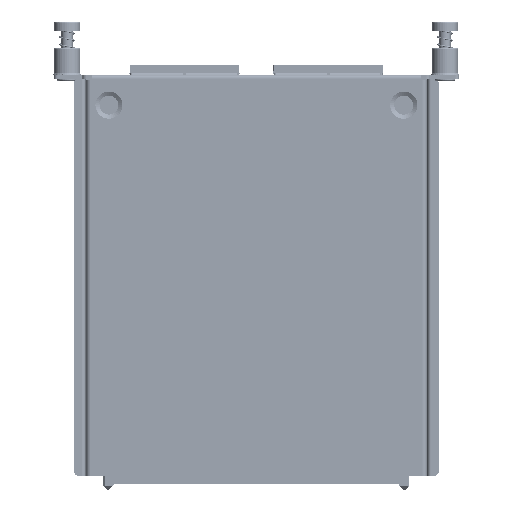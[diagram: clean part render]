
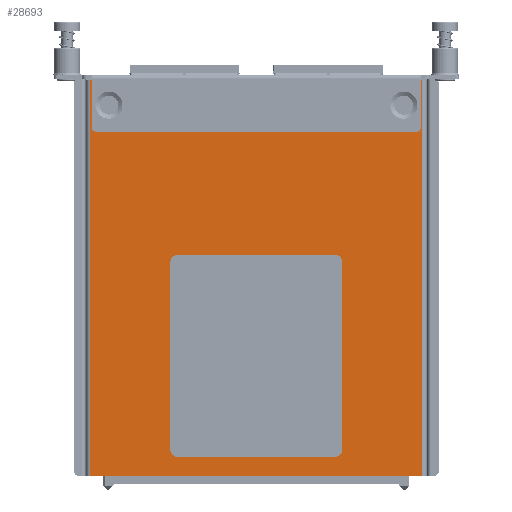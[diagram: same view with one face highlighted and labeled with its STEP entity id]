
A CAD part, front view. The second image highlights one B-rep face of the part: STEP entity #28693.
In plain terms, the highlighted planar face has unit normal (0, -1, 0).
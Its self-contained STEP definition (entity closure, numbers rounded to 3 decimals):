
#7195=CARTESIAN_POINT('',(-39.,-19.3,-7.));
#7196=DIRECTION('',(0.,-1.,0.));
#7197=DIRECTION('',(1.,0.,0.));
#7198=AXIS2_PLACEMENT_3D('',#7195,#7196,#7197);
#7200=CARTESIAN_POINT('',(-39.,-19.3,-7.));
#7201=DIRECTION('',(0.,-1.,0.));
#7202=DIRECTION('',(-1.,0.,0.));
#7203=AXIS2_PLACEMENT_3D('',#7200,#7201,#7202);
#7205=CARTESIAN_POINT('',(39.,-19.3,-7.));
#7206=DIRECTION('',(0.,-1.,0.));
#7207=DIRECTION('',(1.,0.,0.));
#7208=AXIS2_PLACEMENT_3D('',#7205,#7206,#7207);
#7210=CARTESIAN_POINT('',(39.,-19.3,-7.));
#7211=DIRECTION('',(0.,-1.,0.));
#7212=DIRECTION('',(-1.,0.,0.));
#7213=AXIS2_PLACEMENT_3D('',#7210,#7211,#7212);
#7215=CARTESIAN_POINT('',(-42.5,-19.3,-1.3));
#7216=DIRECTION('',(0.,1.,0.));
#7217=DIRECTION('',(0.,0.,1.));
#7218=AXIS2_PLACEMENT_3D('',#7215,#7216,#7217);
#7220=CARTESIAN_POINT('',(-33.5,-19.3,-3.));
#7221=DIRECTION('',(0.,1.,0.));
#7222=DIRECTION('',(0.,0.,1.));
#7223=AXIS2_PLACEMENT_3D('',#7220,#7221,#7222);
#7225=CARTESIAN_POINT('',(33.5,-19.3,-3.));
#7226=DIRECTION('',(0.,1.,0.));
#7227=DIRECTION('',(-1.,0.,0.));
#7228=AXIS2_PLACEMENT_3D('',#7225,#7226,#7227);
#7230=CARTESIAN_POINT('',(42.5,-19.3,-1.3));
#7231=DIRECTION('',(0.,1.,0.));
#7232=DIRECTION('',(-1.,0.,0.));
#7233=AXIS2_PLACEMENT_3D('',#7230,#7231,#7232);
#7235=DIRECTION('',(1.,0.,0.));
#7236=VECTOR('',#7235,1.4);
#7237=CARTESIAN_POINT('',(42.5,-19.3,-0.3));
#7238=LINE('',#7237,#7236);
#7239=DIRECTION('',(1.,0.,0.));
#7240=VECTOR('',#7239,1.4);
#7241=CARTESIAN_POINT('',(-43.9,-19.3,-0.3));
#7242=LINE('',#7241,#7240);
#7243=CARTESIAN_POINT('',(20.75,-19.3,-48.55));
#7244=DIRECTION('',(0.,-1.,0.));
#7245=DIRECTION('',(1.,0.,0.));
#7246=AXIS2_PLACEMENT_3D('',#7243,#7244,#7245);
#7248=DIRECTION('',(1.,0.,0.));
#7249=VECTOR('',#7248,41.5);
#7250=CARTESIAN_POINT('',(-20.75,-19.3,-46.55));
#7251=LINE('',#7250,#7249);
#7252=CARTESIAN_POINT('',(-20.75,-19.3,-48.55));
#7253=DIRECTION('',(0.,-1.,0.));
#7254=DIRECTION('',(0.,0.,1.));
#7255=AXIS2_PLACEMENT_3D('',#7252,#7253,#7254);
#7257=DIRECTION('',(0.,0.,1.));
#7258=VECTOR('',#7257,49.5);
#7259=CARTESIAN_POINT('',(-22.75,-19.3,-98.05));
#7260=LINE('',#7259,#7258);
#7261=CARTESIAN_POINT('',(-20.75,-19.3,-98.05));
#7262=DIRECTION('',(0.,-1.,0.));
#7263=DIRECTION('',(-1.,0.,0.));
#7264=AXIS2_PLACEMENT_3D('',#7261,#7262,#7263);
#7266=DIRECTION('',(-1.,0.,0.));
#7267=VECTOR('',#7266,41.5);
#7268=CARTESIAN_POINT('',(20.75,-19.3,-100.05));
#7269=LINE('',#7268,#7267);
#7270=CARTESIAN_POINT('',(20.75,-19.3,-98.05));
#7271=DIRECTION('',(0.,-1.,0.));
#7272=DIRECTION('',(0.,0.,-1.));
#7273=AXIS2_PLACEMENT_3D('',#7270,#7271,#7272);
#7275=DIRECTION('',(0.,0.,-1.));
#7276=VECTOR('',#7275,49.5);
#7277=CARTESIAN_POINT('',(22.75,-19.3,-48.55));
#7278=LINE('',#7277,#7276);
#7296=DIRECTION('',(0.,0.,-1.));
#7297=VECTOR('',#7296,104.7);
#7298=CARTESIAN_POINT('',(-43.9,-19.3,-0.3));
#7299=LINE('',#7298,#7297);
#7367=DIRECTION('',(1.,0.,0.));
#7368=VECTOR('',#7367,87.8);
#7369=CARTESIAN_POINT('',(-43.9,-19.3,-105.));
#7370=LINE('',#7369,#7368);
#7388=DIRECTION('',(0.,0.,1.));
#7389=VECTOR('',#7388,104.7);
#7390=CARTESIAN_POINT('',(43.9,-19.3,-105.));
#7391=LINE('',#7390,#7389);
#7451=DIRECTION('',(0.,0.,1.));
#7452=VECTOR('',#7451,0.7);
#7453=CARTESIAN_POINT('',(41.5,-19.3,-2.));
#7454=LINE('',#7453,#7452);
#7459=DIRECTION('',(1.,0.,0.));
#7460=VECTOR('',#7459,8.);
#7461=CARTESIAN_POINT('',(33.5,-19.3,-2.));
#7462=LINE('',#7461,#7460);
#7471=DIRECTION('',(0.,0.,1.));
#7472=VECTOR('',#7471,9.);
#7473=CARTESIAN_POINT('',(32.5,-19.3,-12.));
#7474=LINE('',#7473,#7472);
#7475=DIRECTION('',(-1.,0.,0.));
#7476=VECTOR('',#7475,65.);
#7477=CARTESIAN_POINT('',(32.5,-19.3,-12.));
#7478=LINE('',#7477,#7476);
#7487=DIRECTION('',(0.,0.,1.));
#7488=VECTOR('',#7487,9.);
#7489=CARTESIAN_POINT('',(-32.5,-19.3,-12.));
#7490=LINE('',#7489,#7488);
#7499=DIRECTION('',(1.,0.,0.));
#7500=VECTOR('',#7499,8.);
#7501=CARTESIAN_POINT('',(-41.5,-19.3,-2.));
#7502=LINE('',#7501,#7500);
#7507=DIRECTION('',(0.,0.,1.));
#7508=VECTOR('',#7507,0.7);
#7509=CARTESIAN_POINT('',(-41.5,-19.3,-2.));
#7510=LINE('',#7509,#7508);
#13700=CARTESIAN_POINT('',(-42.5,-19.3,-0.3));
#13701=CARTESIAN_POINT('',(-41.5,-19.3,-1.3));
#13702=VERTEX_POINT('',#13700);
#13703=VERTEX_POINT('',#13701);
#13704=CARTESIAN_POINT('',(-43.9,-19.3,-0.3));
#13705=VERTEX_POINT('',#13704);
#13706=CARTESIAN_POINT('',(-43.9,-19.3,-105.));
#13707=VERTEX_POINT('',#13706);
#13708=CARTESIAN_POINT('',(43.9,-19.3,-105.));
#13709=VERTEX_POINT('',#13708);
#13710=CARTESIAN_POINT('',(43.9,-19.3,-0.3));
#13711=VERTEX_POINT('',#13710);
#13712=CARTESIAN_POINT('',(42.5,-19.3,-0.3));
#13713=VERTEX_POINT('',#13712);
#13714=CARTESIAN_POINT('',(41.5,-19.3,-1.3));
#13715=VERTEX_POINT('',#13714);
#13716=CARTESIAN_POINT('',(41.5,-19.3,-2.));
#13717=VERTEX_POINT('',#13716);
#13718=CARTESIAN_POINT('',(33.5,-19.3,-2.));
#13719=VERTEX_POINT('',#13718);
#13720=CARTESIAN_POINT('',(32.5,-19.3,-3.));
#13721=VERTEX_POINT('',#13720);
#13722=CARTESIAN_POINT('',(32.5,-19.3,-12.));
#13723=VERTEX_POINT('',#13722);
#13724=CARTESIAN_POINT('',(-32.5,-19.3,-12.));
#13725=VERTEX_POINT('',#13724);
#13726=CARTESIAN_POINT('',(-32.5,-19.3,-3.));
#13727=VERTEX_POINT('',#13726);
#13728=CARTESIAN_POINT('',(-33.5,-19.3,-2.));
#13729=VERTEX_POINT('',#13728);
#13730=CARTESIAN_POINT('',(-41.5,-19.3,-2.));
#13731=VERTEX_POINT('',#13730);
#14637=CARTESIAN_POINT('',(-40.55,-19.3,-7.));
#14638=CARTESIAN_POINT('',(-37.45,-19.3,-7.));
#14639=VERTEX_POINT('',#14637);
#14640=VERTEX_POINT('',#14638);
#15428=CARTESIAN_POINT('',(37.45,-19.3,-7.));
#15429=CARTESIAN_POINT('',(40.55,-19.3,-7.));
#15430=VERTEX_POINT('',#15428);
#15431=VERTEX_POINT('',#15429);
#15882=CARTESIAN_POINT('',(22.75,-19.3,-48.55));
#15883=CARTESIAN_POINT('',(20.75,-19.3,-46.55));
#15884=VERTEX_POINT('',#15882);
#15885=VERTEX_POINT('',#15883);
#15886=CARTESIAN_POINT('',(-20.75,-19.3,-46.55));
#15887=VERTEX_POINT('',#15886);
#15888=CARTESIAN_POINT('',(-22.75,-19.3,-48.55));
#15889=VERTEX_POINT('',#15888);
#15890=CARTESIAN_POINT('',(-22.75,-19.3,-98.05));
#15891=VERTEX_POINT('',#15890);
#15892=CARTESIAN_POINT('',(-20.75,-19.3,-100.05));
#15893=VERTEX_POINT('',#15892);
#15894=CARTESIAN_POINT('',(20.75,-19.3,-100.05));
#15895=VERTEX_POINT('',#15894);
#15896=CARTESIAN_POINT('',(22.75,-19.3,-98.05));
#15897=VERTEX_POINT('',#15896);
#28624=CARTESIAN_POINT('',(0.,-19.3,-52.65));
#28625=DIRECTION('',(0.,1.,0.));
#28626=DIRECTION('',(1.,0.,0.));
#28627=AXIS2_PLACEMENT_3D('',#28624,#28625,#28626);
#28628=PLANE('',#28627);
#28630=ORIENTED_EDGE('',*,*,#28629,.T.);
#28632=ORIENTED_EDGE('',*,*,#28631,.F.);
#28634=ORIENTED_EDGE('',*,*,#28633,.T.);
#28636=ORIENTED_EDGE('',*,*,#28635,.T.);
#28638=ORIENTED_EDGE('',*,*,#28637,.F.);
#28640=ORIENTED_EDGE('',*,*,#28639,.F.);
#28642=ORIENTED_EDGE('',*,*,#28641,.T.);
#28644=ORIENTED_EDGE('',*,*,#28643,.T.);
#28646=ORIENTED_EDGE('',*,*,#28645,.T.);
#28648=ORIENTED_EDGE('',*,*,#28647,.T.);
#28650=ORIENTED_EDGE('',*,*,#28649,.T.);
#28652=ORIENTED_EDGE('',*,*,#28651,.T.);
#28654=ORIENTED_EDGE('',*,*,#28653,.F.);
#28656=ORIENTED_EDGE('',*,*,#28655,.F.);
#28658=ORIENTED_EDGE('',*,*,#28657,.F.);
#28660=ORIENTED_EDGE('',*,*,#28659,.T.);
#28661=EDGE_LOOP('',(#28630,#28632,#28634,#28636,#28638,#28640,#28642,#28644,
#28646,#28648,#28650,#28652,#28654,#28656,#28658,#28660));
#28662=FACE_OUTER_BOUND('',#28661,.F.);
#28664=ORIENTED_EDGE('',*,*,#28663,.T.);
#28666=ORIENTED_EDGE('',*,*,#28665,.T.);
#28667=EDGE_LOOP('',(#28664,#28666));
#28668=FACE_BOUND('',#28667,.F.);
#28670=ORIENTED_EDGE('',*,*,#28669,.T.);
#28672=ORIENTED_EDGE('',*,*,#28671,.T.);
#28673=EDGE_LOOP('',(#28670,#28672));
#28674=FACE_BOUND('',#28673,.F.);
#28676=ORIENTED_EDGE('',*,*,#28675,.T.);
#28678=ORIENTED_EDGE('',*,*,#28677,.F.);
#28680=ORIENTED_EDGE('',*,*,#28679,.T.);
#28682=ORIENTED_EDGE('',*,*,#28681,.F.);
#28684=ORIENTED_EDGE('',*,*,#28683,.T.);
#28686=ORIENTED_EDGE('',*,*,#28685,.F.);
#28688=ORIENTED_EDGE('',*,*,#28687,.T.);
#28690=ORIENTED_EDGE('',*,*,#28689,.F.);
#28691=EDGE_LOOP('',(#28676,#28678,#28680,#28682,#28684,#28686,#28688,#28690));
#28692=FACE_BOUND('',#28691,.F.);
#7199=CIRCLE('',#7198,1.55);
#7204=CIRCLE('',#7203,1.55);
#7209=CIRCLE('',#7208,1.55);
#7214=CIRCLE('',#7213,1.55);
#7219=CIRCLE('',#7218,1.);
#7224=CIRCLE('',#7223,1.);
#7229=CIRCLE('',#7228,1.);
#7234=CIRCLE('',#7233,1.);
#7247=CIRCLE('',#7246,2.);
#7256=CIRCLE('',#7255,2.);
#7265=CIRCLE('',#7264,2.);
#7274=CIRCLE('',#7273,2.);
#28629=EDGE_CURVE('',#13702,#13703,#7219,.T.);
#28631=EDGE_CURVE('',#13731,#13703,#7510,.T.);
#28633=EDGE_CURVE('',#13731,#13729,#7502,.T.);
#28635=EDGE_CURVE('',#13729,#13727,#7224,.T.);
#28637=EDGE_CURVE('',#13725,#13727,#7490,.T.);
#28639=EDGE_CURVE('',#13723,#13725,#7478,.T.);
#28641=EDGE_CURVE('',#13723,#13721,#7474,.T.);
#28643=EDGE_CURVE('',#13721,#13719,#7229,.T.);
#28645=EDGE_CURVE('',#13719,#13717,#7462,.T.);
#28647=EDGE_CURVE('',#13717,#13715,#7454,.T.);
#28649=EDGE_CURVE('',#13715,#13713,#7234,.T.);
#28651=EDGE_CURVE('',#13713,#13711,#7238,.T.);
#28653=EDGE_CURVE('',#13709,#13711,#7391,.T.);
#28655=EDGE_CURVE('',#13707,#13709,#7370,.T.);
#28657=EDGE_CURVE('',#13705,#13707,#7299,.T.);
#28659=EDGE_CURVE('',#13705,#13702,#7242,.T.);
#28663=EDGE_CURVE('',#15431,#15430,#7209,.T.);
#28665=EDGE_CURVE('',#15430,#15431,#7214,.T.);
#28669=EDGE_CURVE('',#14640,#14639,#7199,.T.);
#28671=EDGE_CURVE('',#14639,#14640,#7204,.T.);
#28675=EDGE_CURVE('',#15884,#15885,#7247,.T.);
#28677=EDGE_CURVE('',#15887,#15885,#7251,.T.);
#28679=EDGE_CURVE('',#15887,#15889,#7256,.T.);
#28681=EDGE_CURVE('',#15891,#15889,#7260,.T.);
#28683=EDGE_CURVE('',#15891,#15893,#7265,.T.);
#28685=EDGE_CURVE('',#15895,#15893,#7269,.T.);
#28687=EDGE_CURVE('',#15895,#15897,#7274,.T.);
#28689=EDGE_CURVE('',#15884,#15897,#7278,.T.);
#28693=ADVANCED_FACE('',(#28662,#28668,#28674,#28692),#28628,.F.);
